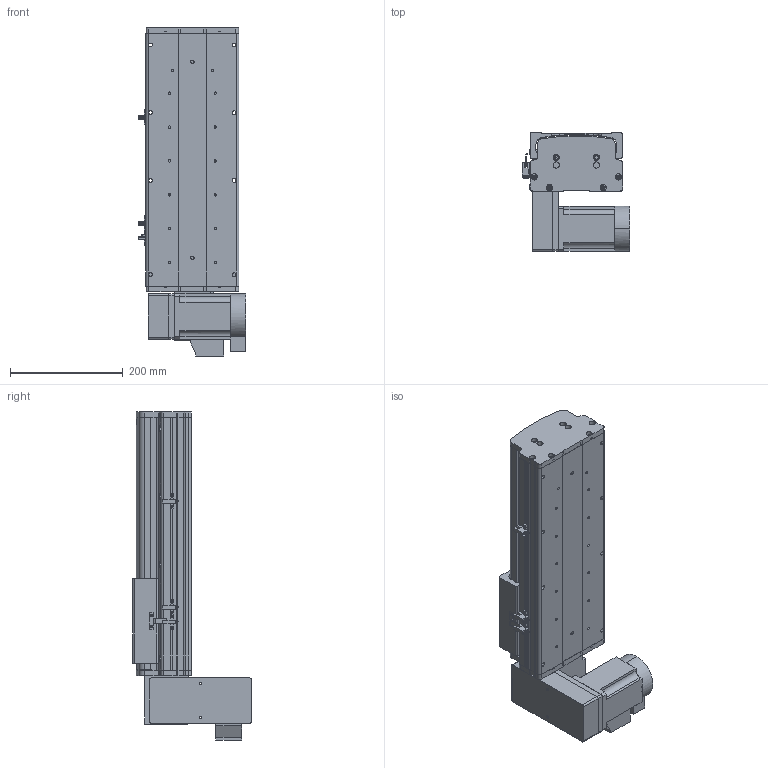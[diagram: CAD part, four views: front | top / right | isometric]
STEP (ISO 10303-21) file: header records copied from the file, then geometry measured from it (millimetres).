
FILE_DESCRIPTION (( 'STEP AP214' ), '1' );
FILE_NAME ('KSD165B-S200-MLD-CM.STEP', '2017-10-16T06:44:38', ( '微软用户' ), ( '微软中国' ), 'SwSTEP 2.0', 'SolidWorks 2014', '' );
FILE_SCHEMA (( 'AUTOMOTIVE_DESIGN' ));
Length unit declared in the file: millimetre
Products named in the file (17): 130宽模组保护罩上下左右折-同步带; HTPA26S5M250-A-H8 750W萇儂蚚; HTPA26S5M250-A-H8 400W萇儂蚚 ; 165宽马达安装板同步带左-改; KSD165模组-同步带防尘盖1-200行程-最新版; KSD165模组同步带底板-200行程-最新; 拸秶雄ん750W侜督萇儂; U倰嫖萇假蚾璃; U倰嫖萇EEㄜSX672; 覜茼え68遵圉猾敕; KSD165模组-同步带-防撞垫2; KSD165模组同步带-防撞垫1; KSD165耀郪-ヶ傷啣1-肮祭湍; KSD165模组-后端板1-同步带; KSD165模组-同步带滑动座-最新版; KSD165B-S200-MLD-CM; 130宽模组马达安装板连板上下折丝杆同步带
Assembly tree (20 placements, depth 2):
  KSD165B-S200-MLD-CM
    KSD165模组-同步带滑动座-最新版
    KSD165模组-后端板1-同步带
    KSD165耀郪-ヶ傷啣1-肮祭湍
    KSD165模组同步带-防撞垫1
    KSD165模组-同步带-防撞垫2
    覜茼え68遵圉猾敕
    U倰嫖萇EEㄜSX672  x3
    U倰嫖萇假蚾璃  x3
    拸秶雄ん750W侜督萇儂
    KSD165模组同步带底板-200行程-最新
    KSD165模组-同步带防尘盖1-200行程-最新版
    165宽马达安装板同步带左-改
    HTPA26S5M250-A-H8 400W萇儂蚚 
    HTPA26S5M250-A-H8 750W萇儂蚚
    130宽模组保护罩上下左右折-同步带
    130宽模组马达安装板连板上下折丝杆同步带
Bounding box: 191.2 x 210 x 581 mm (x, y, z)
Volume: 4308030.2 mm3; surface area: 990831.2 mm2
Topology: 21 solids, 22 shells, 1853 faces, 5208 edges, 3396 vertices
Faces by surface type: cylinder 1165, plane 576, cone 112
Entity records: 59064 total; most frequent: CARTESIAN_POINT 12102, DIRECTION 9800, ORIENTED_EDGE 9076, EDGE_CURVE 4538, AXIS2_PLACEMENT_3D 3828, VERTEX_POINT 2988, CIRCLE 2172, LINE 2144
